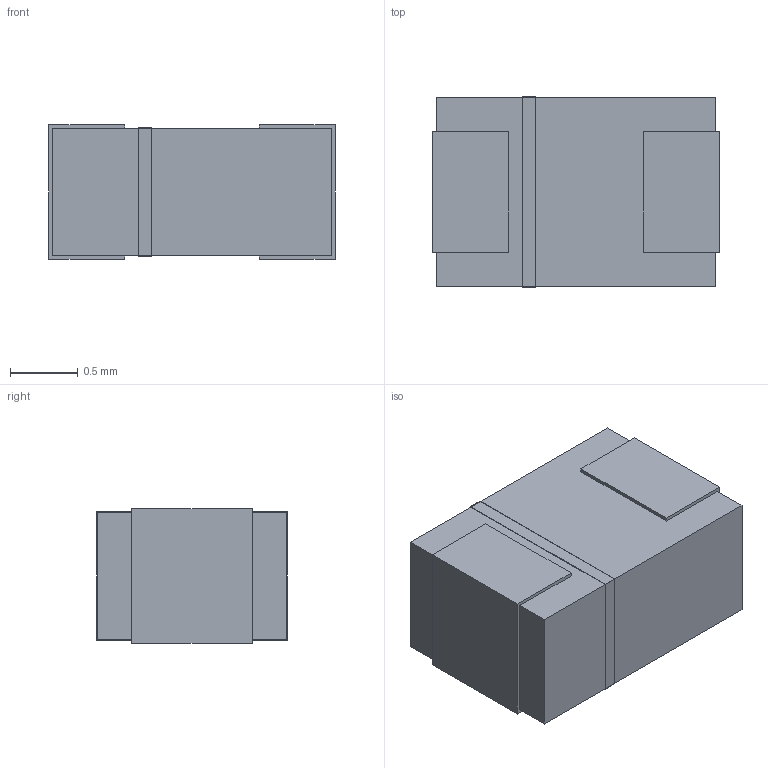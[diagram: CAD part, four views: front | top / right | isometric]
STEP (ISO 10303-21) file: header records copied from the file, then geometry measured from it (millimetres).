
FILE_DESCRIPTION(('STEP AP214'),'1');
FILE_NAME('SD0805_AVX','2021-09-22T01:04:07',(''),(''),'','','');
FILE_SCHEMA(('AUTOMOTIVE_DESIGN'));
Length unit declared in the file: millimetre
Products named in the file (1): product
Bounding box: 2.11 x 1.4 x 0.99 mm (x, y, z)
Volume: 2.8 mm3; surface area: 20.8 mm2
Topology: 4 solids, 4 shells, 38 faces, 88 edges, 56 vertices
Faces by surface type: plane 38
Entity records: 1047 total; most frequent: ORIENTED_EDGE 176, DIRECTION 166, CARTESIAN_POINT 95, EDGE_CURVE 88, LINE 88, VECTOR 88, VERTEX_POINT 56, AXIS2_PLACEMENT_3D 39
